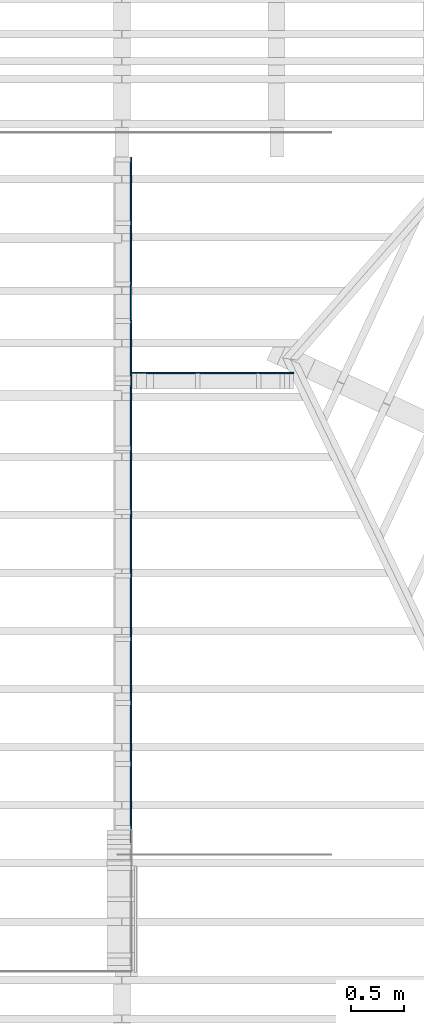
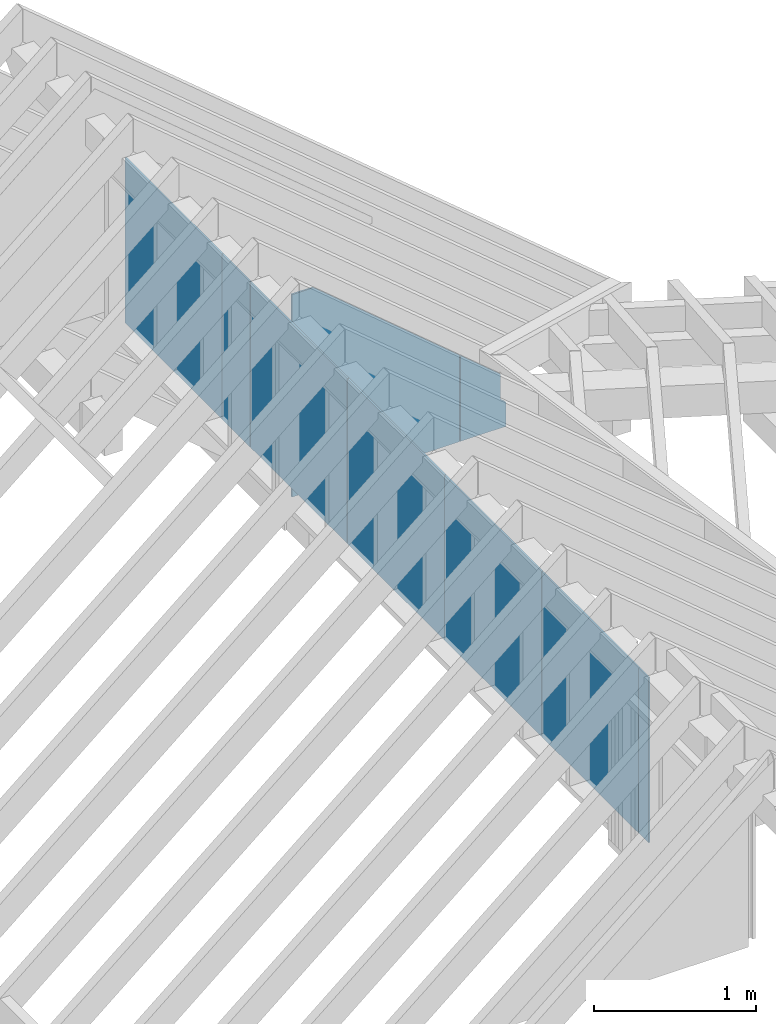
# One storey, part 10 of 11: 9 plates.
"""IFC2X3 building model written with IfcOpenShell, lengths in metres."""

from ifc_helpers import new_model, si_unit, direction, frame, origin_with_axes, place, context, subcontext, project, spatial, faceted_brep, material, element, save


model = new_model("IFC2X3")

# Units and contexts
model_context = context("Model", 3, precision=1e-06, world=origin_with_axes(), true_north=direction((0.0, 1.0, 0.0)))
body_context = subcontext(model_context, "Body", "Model", "MODEL_VIEW")
ifc_project = project(units=[si_unit("LENGTHUNIT", "METRE"), si_unit("AREAUNIT", "SQUARE_METRE"), si_unit("VOLUMEUNIT", "CUBIC_METRE"), si_unit("PLANEANGLEUNIT", "RADIAN")], contexts=[model_context])

# Site, building, storey
site_placement = place(None, origin_with_axes())
site = spatial("IfcSite", under=ifc_project, at=site_placement, CompositionType="ELEMENT")
building_placement = place(site_placement, origin_with_axes())
building = spatial("IfcBuilding", under=site, at=building_placement, Name="Building 1", CompositionType="ELEMENT")
storey_placement = place(building_placement, origin_with_axes())
storey = spatial("IfcBuildingStorey", under=building, at=storey_placement, Name="Comble et couverture", CompositionType="ELEMENT", Elevation=0.0)

# Plates
ifc_material = material(Name="OSB")
plate_1_placement = place(storey_placement, frame((3.442, 7.078, 5.5854713), z_axis=(1.0, 0.0, 0.0), x_axis=(0.0, 0.0, 1.0)))
element("IfcPlate", 1, at=plate_1_placement, inside=storey, material=ifc_material, Name="Panneau de contreventement MFP", context=body_context, shape_type="Brep", body=[
    faceted_brep([(0.0, -0.598, 0.006), (1.245, -0.598, 0.006), (1.245, 0.598, 0.006), (0.0, 0.598, 0.006), (1.245, -0.598, -0.006), (1.245, 0.598, -0.006), (0.0, 0.598, -0.006), (0.0, -0.598, -0.006)], [[[0, 1, 2, 3]], [[1, 4, 5, 2]], [[6, 3, 2, 5]], [[7, 0, 3, 6]], [[4, 7, 6, 5]], [[4, 1, 0, 7]]]),
])
plate_2_placement = place(storey_placement, frame((3.442, 6.3044141, 5.5854713), z_axis=(1.0, 0.0, 0.0), x_axis=(0.0, 0.0, 1.0)))
element("IfcPlate", 2, at=plate_2_placement, inside=storey, material=ifc_material, Name="Panneau de contreventement MFP", context=body_context, shape_type="Brep", body=[
    faceted_brep([(0.0, 0.171586, -0.006), (0.0, 0.171586, 0.006), (1.245, 0.171586, 0.006), (1.245, 0.171586, -0.006), (1.245, -0.171586, -0.006), (0.0, -0.171586, -0.006), (1.245, -0.171586, 0.006), (0.0, -0.171586, 0.006)], [[[0, 1, 2, 3]], [[0, 3, 4, 5]], [[3, 2, 6, 4]], [[2, 1, 7, 6]], [[1, 0, 5, 7]], [[4, 6, 7, 5]]]),
])
plate_3_placement = place(storey_placement, frame((3.442, 5.5308281, 5.5854713), z_axis=(1.0, 0.0, 0.0), x_axis=(0.0, 0.0, 1.0)))
element("IfcPlate", 3, at=plate_3_placement, inside=storey, material=ifc_material, Name="Panneau de contreventement MFP", context=body_context, shape_type="Brep", body=[
    faceted_brep([(0.0, -0.598, 0.006), (1.245, -0.598, 0.006), (1.245, 0.598, 0.006), (0.0, 0.598, 0.006), (1.245, -0.598, -0.006), (1.245, 0.598, -0.006), (0.0, 0.598, -0.006), (0.0, -0.598, -0.006)], [[[0, 1, 2, 3]], [[1, 4, 5, 2]], [[6, 3, 2, 5]], [[7, 0, 3, 6]], [[4, 7, 6, 5]], [[4, 1, 0, 7]]]),
])
plate_4_placement = place(storey_placement, frame((4.046, 5.6412176, 5.5043053), z_axis=(0.0, 1.0, 0.0), x_axis=(0.0, 0.0, 1.0)))
element("IfcPlate", 4, at=plate_4_placement, inside=storey, material=ifc_material, Name="Panneau de contreventement MFP", context=body_context, shape_type="Brep", body=[
    faceted_brep([(1.526166, -0.598, -0.006), (1.526166, -0.4447975, -0.006), (1.526166, -0.4447975, 0.006), (1.526166, -0.598, 0.006), (0.6511551, 0.598, -0.006), (0.6511551, 0.598, 0.006), (0.0, -0.598, -0.006), (0.0, 0.598, -0.006), (0.0, 0.598, 0.006), (0.0, -0.598, 0.006)], [[[0, 1, 2, 3]], [[2, 1, 4, 5]], [[1, 0, 6, 7, 4]], [[3, 2, 5, 8, 9]], [[5, 4, 7, 8]], [[0, 3, 9, 6]], [[6, 9, 8, 7]]]),
])
for number, where, z_axis, x_axis, name in (
    (5, (3.442, 4.3308281, 5.5854713), (1.0, 0.0, 0.0), (0.0, 0.0, 1.0), "Panneau de contreventement MFP"),
    (6, (3.442, 1.9308281, 5.5854713), (1.0, 0.0, 0.0), (0.0, 0.0, 1.0), "Panneau de contreventement MFP"),
):
    element("IfcPlate", number, at=place(storey_placement, frame(where, z_axis=z_axis, x_axis=x_axis)), inside=storey, material=ifc_material, Name=name, context=body_context, shape_type="Brep", body=[
        faceted_brep([(0.0, -0.598, 0.006), (1.245, -0.598, 0.006), (1.245, 0.598, 0.006), (0.0, 0.598, 0.006), (1.245, -0.598, -0.006), (1.245, 0.598, -0.006), (0.0, 0.598, -0.006), (0.0, -0.598, -0.006)], [[[0, 1, 2, 3]], [[1, 4, 5, 2]], [[6, 3, 2, 5]], [[7, 0, 3, 6]], [[4, 7, 6, 5]], [[4, 1, 0, 7]]]),
    ])
plate_5_placement = place(storey_placement, frame((4.8103408, 5.6412176, 5.5043053), z_axis=(0.0, 1.0, 0.0), x_axis=(0.0, 0.0, 1.0)))
element("IfcPlate", 7, at=plate_5_placement, inside=storey, material=ifc_material, Name="Panneau de contreventement MFP", context=body_context, shape_type="Brep", body=[
    faceted_brep([(0.2174746, 0.1238064, -0.006), (0.1851403, 0.1623408, -0.006), (0.1851403, 0.1623408, 0.006), (0.2174746, 0.1238064, 0.006), (0.4076926, 0.1238064, -0.006), (0.4076926, 0.1238064, 0.006), (0.6477986, -0.1623408, 0.006), (0.6477986, -0.1623408, -0.006), (0.0, 0.1623408, -0.006), (0.0, 0.1623408, 0.006), (0.0, -0.1623408, -0.006), (0.0, -0.1623408, 0.006)], [[[0, 1, 2, 3]], [[4, 0, 3, 5]], [[4, 5, 6, 7]], [[2, 1, 8, 9]], [[0, 4, 7, 10, 8, 1]], [[3, 2, 9, 11, 6, 5]], [[9, 8, 10, 11]], [[7, 6, 11, 10]]]),
])
plate_6_placement = place(storey_placement, frame((3.442, 3.1308281, 5.5854713), z_axis=(1.0, 0.0, 0.0), x_axis=(0.0, 0.0, 1.0)))
element("IfcPlate", 8, at=plate_6_placement, inside=storey, material=ifc_material, Name="Panneau de contreventement MFP", context=body_context, shape_type="Brep", body=[
    faceted_brep([(0.0, -0.598, 0.006), (1.245, -0.598, 0.006), (1.245, 0.598, 0.006), (0.0, 0.598, 0.006), (1.245, -0.598, -0.006), (1.245, 0.598, -0.006), (0.0, 0.598, -0.006), (0.0, -0.598, -0.006)], [[[0, 1, 2, 3]], [[1, 4, 5, 2]], [[6, 3, 2, 5]], [[7, 0, 3, 6]], [[4, 7, 6, 5]], [[4, 1, 0, 7]]]),
])
plate_7_placement = place(storey_placement, frame((3.442, 1.2724141, 5.5854713), z_axis=(1.0, 0.0, 0.0), x_axis=(0.0, 0.0, 1.0)))
element("IfcPlate", 9, at=plate_7_placement, inside=storey, material=ifc_material, Name="Panneau de contreventement MFP", context=body_context, shape_type="Brep", body=[
    faceted_brep([(1.245, 0.0604141, 0.006), (0.0, 0.0604141, 0.006), (0.0, -0.0604141, 0.006), (1.245, -0.0604141, 0.006), (1.245, 0.0604141, -0.006), (1.245, -0.0604141, -0.006), (0.0, -0.0604141, -0.006), (0.0, 0.0604141, -0.006)], [[[0, 1, 2, 3]], [[4, 0, 3, 5]], [[6, 5, 3, 2]], [[1, 7, 6, 2]], [[7, 4, 5, 6]], [[7, 1, 0, 4]]]),
])

save(model, "model.ifc")
